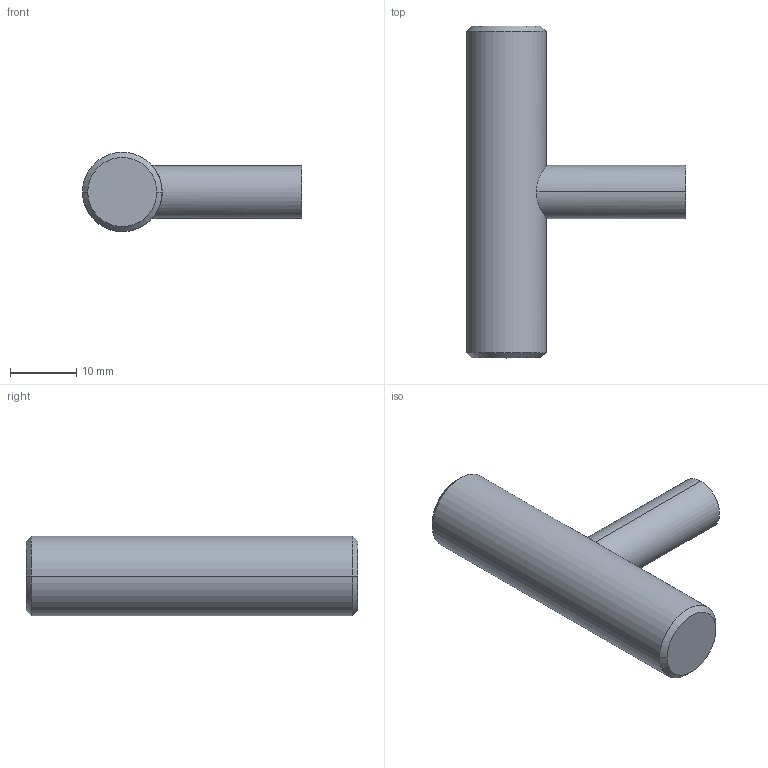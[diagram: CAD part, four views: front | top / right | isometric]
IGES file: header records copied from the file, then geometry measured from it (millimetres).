
Start section: 3D InterOp IGES (v. 2022 1.0.1), Spatial Corp. Copyright (c) 1999-2020.
Global section: file name: S148-T.igs; native system: Spatial Corp.; preprocessor: 3D InterOp GENERIC/IGES 3.0; author: Noname; organization: Noname; date: 20260422.150642; units: millimetre
Bounding box: 33 x 50 x 12 mm (x, y, z)
Volume: 6516.7 mm3; surface area: 2805.5 mm2
Topology: 1 solids, 1 shells, 14 faces, 29 edges, 18 vertices
Faces by surface type: cylinder 6, extrusion 4, cone 4
